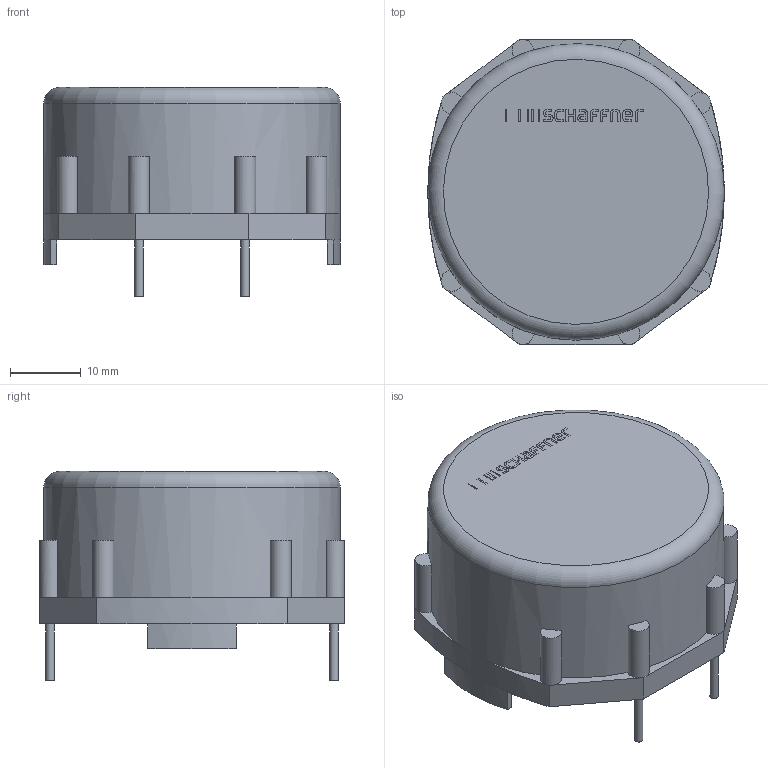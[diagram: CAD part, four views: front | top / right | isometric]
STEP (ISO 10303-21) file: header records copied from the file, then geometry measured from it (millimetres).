
FILE_DESCRIPTION((''),'2;1');
FILE_NAME('K:\CAD-PDM\Library\Inventor\3D format STEP file\3D RN-series\RN152.stp','2016-06-28T13:53:48',('jittrapon.maneerat'),(''),'Autodesk Inventor 2013','Autodesk Inventor 2013','');
FILE_SCHEMA(('AUTOMOTIVE_DESIGN { 1 0 10303 214 1 1 1 1 }'));
Length unit declared in the file: millimetre
Products named in the file (1): Part10
Bounding box: 41.8 x 43 x 29.51 mm (x, y, z)
Volume: 30224.6 mm3; surface area: 6291.5 mm2
Topology: 1 solids, 1 shells, 215 faces, 555 edges, 363 vertices
Faces by surface type: plane 162, bspline 32, cylinder 20, torus 1
Full cylindrical faces by diameter (mm): 1.2 x4, 39.4 x1, 41.8 x1
Entity records: 6954 total; most frequent: CARTESIAN_POINT 1613, ORIENTED_EDGE 1094, DIRECTION 935, EDGE_CURVE 547, VECTOR 399, LINE 399, VERTEX_POINT 362, AXIS2_PLACEMENT_3D 268
